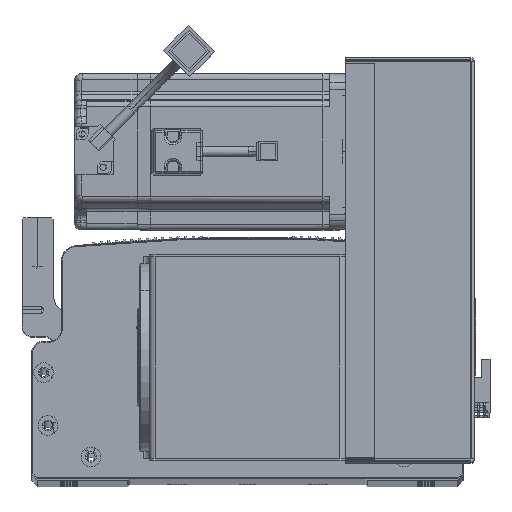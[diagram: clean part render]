
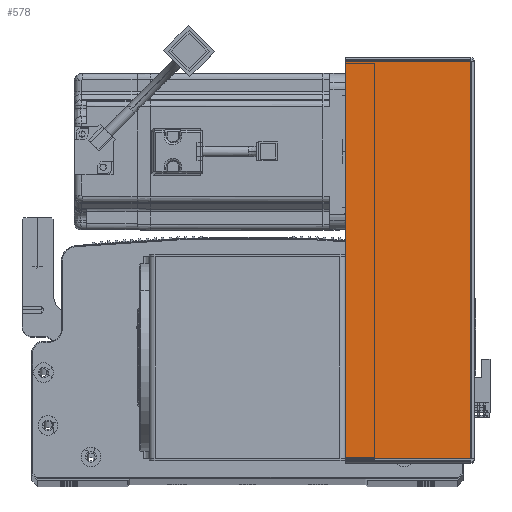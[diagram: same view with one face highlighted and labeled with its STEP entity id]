
A CAD part, top view. The second image highlights one B-rep face of the part: STEP entity #578.
In plain terms, the highlighted planar face has unit normal (0, 0, 1) as drawn and (0, -1, 0) by its records, which use the part's own axes.
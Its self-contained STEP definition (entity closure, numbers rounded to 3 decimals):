
#382 = EDGE_LOOP ( 'NONE', ( #41218, #22084, #3191, #51100 ) ) ;
#578 = ADVANCED_FACE ( 'NONE', ( #20725 ), #24723, .F. ) ;
#2164 = LINE ( 'NONE', #3805, #58129 ) ;
#3191 = ORIENTED_EDGE ( 'NONE', *, *, #30185, .T. ) ;
#3805 = CARTESIAN_POINT ( 'NONE',  ( 64.5, -1.5, 0. ) ) ;
#4774 = LINE ( 'NONE', #48245, #13587 ) ;
#6502 = AXIS2_PLACEMENT_3D ( 'NONE', #16700, #31190, #87715 ) ;
#13587 = VECTOR ( 'NONE', #54687, 1000. ) ;
#14022 = CARTESIAN_POINT ( 'NONE',  ( 0., -1.5, -0.707 ) ) ;
#14210 = CARTESIAN_POINT ( 'NONE',  ( 0.737, -1.5, -203.293 ) ) ;
#14413 = VERTEX_POINT ( 'NONE', #14210 ) ;
#16700 = CARTESIAN_POINT ( 'NONE',  ( 0., -1.5, 0. ) ) ;
#20725 = FACE_OUTER_BOUND ( 'NONE', #382, .T. ) ;
#22084 = ORIENTED_EDGE ( 'NONE', *, *, #26811, .T. ) ;
#24723 = PLANE ( 'NONE',  #6502 ) ;
#26550 = CARTESIAN_POINT ( 'NONE',  ( 0.737, -1.5, -0.707 ) ) ;
#26811 = EDGE_CURVE ( 'NONE', #14413, #86139, #4774, .T. ) ;
#27611 = DIRECTION ( 'NONE',  ( 1., 0., 0. ) ) ;
#28859 = DIRECTION ( 'NONE',  ( 0., 0., 1. ) ) ;
#30185 = EDGE_CURVE ( 'NONE', #86139, #47398, #2164, .T. ) ;
#31190 = DIRECTION ( 'NONE',  ( 0., 1., 0. ) ) ;
#37382 = VECTOR ( 'NONE', #27611, 1000. ) ;
#41218 = ORIENTED_EDGE ( 'NONE', *, *, #68186, .F. ) ;
#43494 = LINE ( 'NONE', #56675, #45692 ) ;
#45692 = VECTOR ( 'NONE', #28859, 1000. ) ;
#47398 = VERTEX_POINT ( 'NONE', #73422 ) ;
#48245 = CARTESIAN_POINT ( 'NONE',  ( 0., -1.5, -203.293 ) ) ;
#51100 = ORIENTED_EDGE ( 'NONE', *, *, #65406, .F. ) ;
#54687 = DIRECTION ( 'NONE',  ( 1., 0., 0. ) ) ;
#56021 = LINE ( 'NONE', #14022, #37382 ) ;
#56675 = CARTESIAN_POINT ( 'NONE',  ( 0.737, -1.5, 0. ) ) ;
#58129 = VECTOR ( 'NONE', #68750, 1000. ) ;
#65406 = EDGE_CURVE ( 'NONE', #90907, #47398, #56021, .T. ) ;
#68186 = EDGE_CURVE ( 'NONE', #14413, #90907, #43494, .T. ) ;
#68750 = DIRECTION ( 'NONE',  ( 0., 0., 1. ) ) ;
#73422 = CARTESIAN_POINT ( 'NONE',  ( 64.5, -1.5, -0.707 ) ) ;
#85904 = CARTESIAN_POINT ( 'NONE',  ( 64.5, -1.5, -203.293 ) ) ;
#86139 = VERTEX_POINT ( 'NONE', #85904 ) ;
#87715 = DIRECTION ( 'NONE',  ( -1., 0., 0. ) ) ;
#90907 = VERTEX_POINT ( 'NONE', #26550 ) ;
